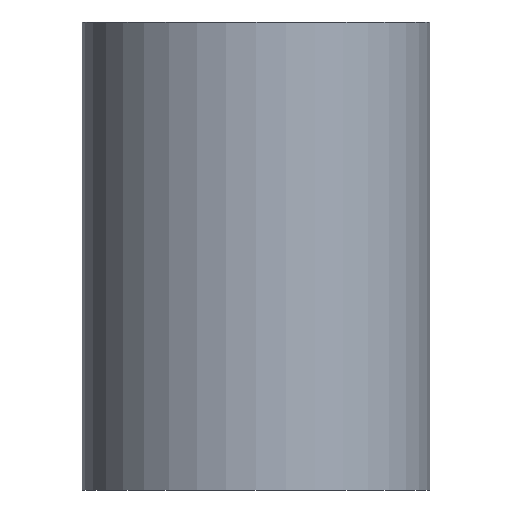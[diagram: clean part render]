
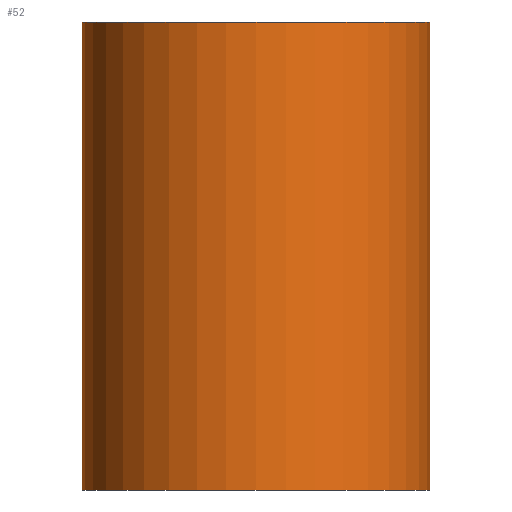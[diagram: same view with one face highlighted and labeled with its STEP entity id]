
A CAD part, front view. The second image highlights one B-rep face of the part: STEP entity #52.
In plain terms, the highlighted cylindrical face has radius 28.9 mm (diameter 57.8 mm), a full revolution.
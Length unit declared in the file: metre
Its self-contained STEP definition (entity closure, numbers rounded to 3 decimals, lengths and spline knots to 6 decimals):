
#14=ORIENTED_EDGE('',*,*,#22,.T.);
#15=ORIENTED_EDGE('',*,*,#23,.F.);
#22=EDGE_CURVE('',#26,#26,#30,.F.);
#23=EDGE_CURVE('',#27,#27,#31,.T.);
#26=VERTEX_POINT('',#98);
#27=VERTEX_POINT('',#100);
#30=CIRCLE('',#70,0.0289);
#31=CIRCLE('',#71,0.0289);
#34=EDGE_LOOP('',(#14));
#35=EDGE_LOOP('',(#15));
#42=FACE_BOUND('',#34,.T.);
#43=FACE_BOUND('',#35,.T.);
#50=CYLINDRICAL_SURFACE('',#69,0.0289);
#52=ADVANCED_FACE('',(#42,#43),#50,.T.);
#69=AXIS2_PLACEMENT_3D('',#96,#79,#80);
#70=AXIS2_PLACEMENT_3D('',#97,#81,#82);
#71=AXIS2_PLACEMENT_3D('',#99,#83,#84);
#79=DIRECTION('',(0.,0.,-1.));
#80=DIRECTION('',(-1.,0.,0.));
#81=DIRECTION('',(0.,0.,-1.));
#82=DIRECTION('',(-1.,0.,0.));
#83=DIRECTION('',(0.,0.,1.));
#84=DIRECTION('',(1.,0.,0.));
#96=CARTESIAN_POINT('',(0.,0.,0.08));
#97=CARTESIAN_POINT('',(0.,0.,0.00215));
#98=CARTESIAN_POINT('',(-0.0289,0.,0.00215));
#99=CARTESIAN_POINT('',(0.,0.,0.08));
#100=CARTESIAN_POINT('',(0.0289,0.,0.08));
